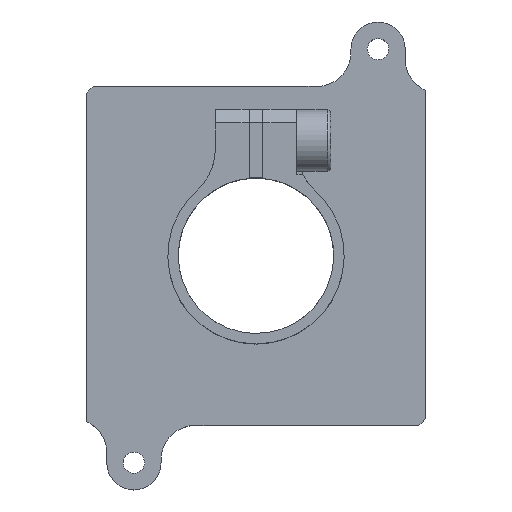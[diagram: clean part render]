
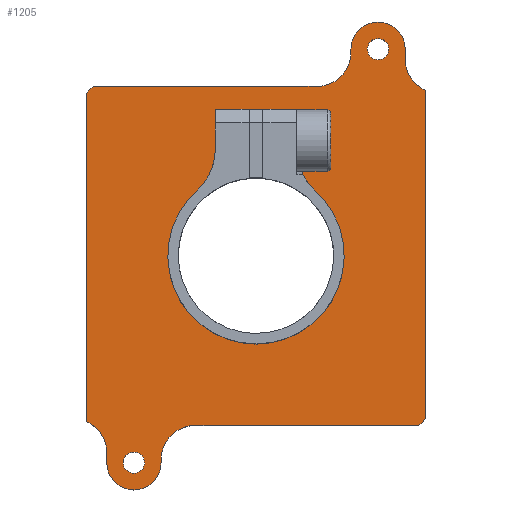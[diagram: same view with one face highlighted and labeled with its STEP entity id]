
A CAD part, top view. The second image highlights one B-rep face of the part: STEP entity #1205.
In plain terms, the highlighted planar face has unit normal (0, 0, 1).
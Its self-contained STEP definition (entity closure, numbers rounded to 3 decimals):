
#51=FACE_BOUND('',#124,.T.);
#52=FACE_BOUND('',#125,.T.);
#53=FACE_BOUND('',#126,.T.);
#58=FACE_OUTER_BOUND('',#123,.T.);
#123=EDGE_LOOP('',(#783,#784,#785,#786,#787,#788,#789,#790,#791,#792,#793,
#794,#795,#796,#797,#798));
#124=EDGE_LOOP('',(#799,#800,#801,#802,#803,#804));
#125=EDGE_LOOP('',(#805));
#126=EDGE_LOOP('',(#806));
#202=CIRCLE('',#1303,2.5);
#203=CIRCLE('',#1304,2.);
#204=CIRCLE('',#1305,2.5);
#205=CIRCLE('',#1306,2.5);
#206=CIRCLE('',#1307,2.);
#207=CIRCLE('',#1308,2.5);
#208=CIRCLE('',#1309,4.);
#209=CIRCLE('',#1310,4.);
#210=CIRCLE('',#1311,6.5);
#211=CIRCLE('',#1312,0.784);
#212=CIRCLE('',#1313,0.784);
#252=LINE('',#1793,#367);
#253=LINE('',#1797,#368);
#254=LINE('',#1801,#369);
#255=LINE('',#1805,#370);
#256=LINE('',#1807,#371);
#257=LINE('',#1809,#372);
#258=LINE('',#1813,#373);
#259=LINE('',#1817,#374);
#260=LINE('',#1821,#375);
#261=LINE('',#1822,#376);
#262=LINE('',#1827,#377);
#263=LINE('',#1829,#378);
#264=LINE('',#1831,#379);
#367=VECTOR('',#1443,10.);
#368=VECTOR('',#1446,10.);
#369=VECTOR('',#1449,10.);
#370=VECTOR('',#1452,10.);
#371=VECTOR('',#1453,10.);
#372=VECTOR('',#1454,10.);
#373=VECTOR('',#1457,10.);
#374=VECTOR('',#1460,10.);
#375=VECTOR('',#1463,10.);
#376=VECTOR('',#1464,10.);
#377=VECTOR('',#1467,10.);
#378=VECTOR('',#1468,10.);
#379=VECTOR('',#1469,10.);
#494=VERTEX_POINT('',#1791);
#495=VERTEX_POINT('',#1792);
#496=VERTEX_POINT('',#1794);
#497=VERTEX_POINT('',#1796);
#498=VERTEX_POINT('',#1798);
#499=VERTEX_POINT('',#1800);
#500=VERTEX_POINT('',#1802);
#501=VERTEX_POINT('',#1804);
#502=VERTEX_POINT('',#1806);
#503=VERTEX_POINT('',#1808);
#504=VERTEX_POINT('',#1810);
#505=VERTEX_POINT('',#1812);
#506=VERTEX_POINT('',#1814);
#507=VERTEX_POINT('',#1816);
#508=VERTEX_POINT('',#1818);
#509=VERTEX_POINT('',#1820);
#510=VERTEX_POINT('',#1823);
#511=VERTEX_POINT('',#1824);
#512=VERTEX_POINT('',#1826);
#513=VERTEX_POINT('',#1828);
#514=VERTEX_POINT('',#1830);
#515=VERTEX_POINT('',#1832);
#516=VERTEX_POINT('',#1835);
#517=VERTEX_POINT('',#1837);
#610=EDGE_CURVE('',#494,#495,#252,.T.);
#611=EDGE_CURVE('',#495,#496,#202,.T.);
#612=EDGE_CURVE('',#496,#497,#253,.T.);
#613=EDGE_CURVE('',#497,#498,#203,.T.);
#614=EDGE_CURVE('',#498,#499,#254,.T.);
#615=EDGE_CURVE('',#499,#500,#204,.T.);
#616=EDGE_CURVE('',#500,#501,#255,.T.);
#617=EDGE_CURVE('',#501,#502,#256,.T.);
#618=EDGE_CURVE('',#502,#503,#257,.T.);
#619=EDGE_CURVE('',#503,#504,#205,.T.);
#620=EDGE_CURVE('',#504,#505,#258,.T.);
#621=EDGE_CURVE('',#505,#506,#206,.T.);
#622=EDGE_CURVE('',#506,#507,#259,.T.);
#623=EDGE_CURVE('',#507,#508,#207,.T.);
#624=EDGE_CURVE('',#508,#509,#260,.T.);
#625=EDGE_CURVE('',#509,#494,#261,.T.);
#626=EDGE_CURVE('',#510,#511,#208,.T.);
#627=EDGE_CURVE('',#511,#512,#262,.T.);
#628=EDGE_CURVE('',#512,#513,#263,.T.);
#629=EDGE_CURVE('',#513,#514,#264,.T.);
#630=EDGE_CURVE('',#514,#515,#209,.T.);
#631=EDGE_CURVE('',#515,#510,#210,.T.);
#632=EDGE_CURVE('',#516,#516,#211,.T.);
#633=EDGE_CURVE('',#517,#517,#212,.T.);
#783=ORIENTED_EDGE('',*,*,#610,.T.);
#784=ORIENTED_EDGE('',*,*,#611,.T.);
#785=ORIENTED_EDGE('',*,*,#612,.T.);
#786=ORIENTED_EDGE('',*,*,#613,.T.);
#787=ORIENTED_EDGE('',*,*,#614,.T.);
#788=ORIENTED_EDGE('',*,*,#615,.T.);
#789=ORIENTED_EDGE('',*,*,#616,.T.);
#790=ORIENTED_EDGE('',*,*,#617,.T.);
#791=ORIENTED_EDGE('',*,*,#618,.T.);
#792=ORIENTED_EDGE('',*,*,#619,.T.);
#793=ORIENTED_EDGE('',*,*,#620,.T.);
#794=ORIENTED_EDGE('',*,*,#621,.T.);
#795=ORIENTED_EDGE('',*,*,#622,.T.);
#796=ORIENTED_EDGE('',*,*,#623,.T.);
#797=ORIENTED_EDGE('',*,*,#624,.T.);
#798=ORIENTED_EDGE('',*,*,#625,.T.);
#799=ORIENTED_EDGE('',*,*,#626,.T.);
#800=ORIENTED_EDGE('',*,*,#627,.T.);
#801=ORIENTED_EDGE('',*,*,#628,.T.);
#802=ORIENTED_EDGE('',*,*,#629,.T.);
#803=ORIENTED_EDGE('',*,*,#630,.T.);
#804=ORIENTED_EDGE('',*,*,#631,.T.);
#805=ORIENTED_EDGE('',*,*,#632,.T.);
#806=ORIENTED_EDGE('',*,*,#633,.T.);
#1104=PLANE('',#1302);
#1205=ADVANCED_FACE('',(#58,#51,#52,#53),#1104,.T.);
#1302=AXIS2_PLACEMENT_3D('',#1790,#1441,#1442);
#1303=AXIS2_PLACEMENT_3D('',#1795,#1444,#1445);
#1304=AXIS2_PLACEMENT_3D('',#1799,#1447,#1448);
#1305=AXIS2_PLACEMENT_3D('',#1803,#1450,#1451);
#1306=AXIS2_PLACEMENT_3D('',#1811,#1455,#1456);
#1307=AXIS2_PLACEMENT_3D('',#1815,#1458,#1459);
#1308=AXIS2_PLACEMENT_3D('',#1819,#1461,#1462);
#1309=AXIS2_PLACEMENT_3D('',#1825,#1465,#1466);
#1310=AXIS2_PLACEMENT_3D('',#1833,#1470,#1471);
#1311=AXIS2_PLACEMENT_3D('',#1834,#1472,#1473);
#1312=AXIS2_PLACEMENT_3D('',#1836,#1474,#1475);
#1313=AXIS2_PLACEMENT_3D('',#1838,#1476,#1477);
#1441=DIRECTION('center_axis',(0.,0.,1.));
#1442=DIRECTION('ref_axis',(1.,0.,0.));
#1443=DIRECTION('',(0.,-1.,0.));
#1444=DIRECTION('center_axis',(0.,0.,-1.));
#1445=DIRECTION('ref_axis',(-1.,0.,0.));
#1446=DIRECTION('',(0.,-1.,0.));
#1447=DIRECTION('center_axis',(0.,0.,1.));
#1448=DIRECTION('ref_axis',(-1.,0.,0.));
#1449=DIRECTION('',(0.,1.,0.));
#1450=DIRECTION('center_axis',(0.,0.,-1.));
#1451=DIRECTION('ref_axis',(0.,-1.,0.));
#1452=DIRECTION('',(1.,0.,0.));
#1453=DIRECTION('',(0.707,0.707,0.));
#1454=DIRECTION('',(0.,1.,0.));
#1455=DIRECTION('center_axis',(0.,0.,-1.));
#1456=DIRECTION('ref_axis',(1.,0.,0.));
#1457=DIRECTION('',(0.,1.,0.));
#1458=DIRECTION('center_axis',(0.,0.,1.));
#1459=DIRECTION('ref_axis',(1.,0.,0.));
#1460=DIRECTION('',(0.,-1.,0.));
#1461=DIRECTION('center_axis',(0.,0.,-1.));
#1462=DIRECTION('ref_axis',(0.,1.,0.));
#1463=DIRECTION('',(-1.,0.,0.));
#1464=DIRECTION('',(-0.707,-0.707,0.));
#1465=DIRECTION('center_axis',(0.,0.,1.));
#1466=DIRECTION('ref_axis',(-0.667,0.745,0.));
#1467=DIRECTION('',(0.,1.,0.));
#1468=DIRECTION('',(1.,0.,0.));
#1469=DIRECTION('',(0.,-1.,0.));
#1470=DIRECTION('center_axis',(0.,0.,1.));
#1471=DIRECTION('ref_axis',(1.,0.,0.));
#1472=DIRECTION('center_axis',(0.,0.,-1.));
#1473=DIRECTION('ref_axis',(-0.667,0.745,0.));
#1474=DIRECTION('center_axis',(0.,0.,-1.));
#1475=DIRECTION('ref_axis',(-1.,0.,0.));
#1476=DIRECTION('center_axis',(0.,0.,-1.));
#1477=DIRECTION('ref_axis',(-1.,0.,0.));
#1790=CARTESIAN_POINT('Origin',(0.,0.,4.5));
#1791=CARTESIAN_POINT('',(-12.5,12.,4.5));
#1792=CARTESIAN_POINT('',(-12.5,-12.209,4.5));
#1793=CARTESIAN_POINT('',(-12.5,12.,4.5));
#1794=CARTESIAN_POINT('',(-11.,-14.5,4.5));
#1795=CARTESIAN_POINT('Origin',(-13.5,-14.5,4.5));
#1796=CARTESIAN_POINT('',(-11.,-15.25,4.5));
#1797=CARTESIAN_POINT('',(-11.,-14.5,4.5));
#1798=CARTESIAN_POINT('',(-7.,-15.25,4.5));
#1799=CARTESIAN_POINT('Origin',(-9.,-15.25,4.5));
#1800=CARTESIAN_POINT('',(-7.,-15.,4.5));
#1801=CARTESIAN_POINT('',(-7.,-15.25,4.5));
#1802=CARTESIAN_POINT('',(-4.5,-12.5,4.5));
#1803=CARTESIAN_POINT('Origin',(-4.5,-15.,4.5));
#1804=CARTESIAN_POINT('',(12.,-12.5,4.5));
#1805=CARTESIAN_POINT('',(-4.5,-12.5,4.5));
#1806=CARTESIAN_POINT('',(12.5,-12.,4.5));
#1807=CARTESIAN_POINT('',(12.,-12.5,4.5));
#1808=CARTESIAN_POINT('',(12.5,12.209,4.5));
#1809=CARTESIAN_POINT('',(12.5,-12.,4.5));
#1810=CARTESIAN_POINT('',(11.,14.5,4.5));
#1811=CARTESIAN_POINT('Origin',(13.5,14.5,4.5));
#1812=CARTESIAN_POINT('',(11.,15.25,4.5));
#1813=CARTESIAN_POINT('',(11.,14.5,4.5));
#1814=CARTESIAN_POINT('',(7.,15.25,4.5));
#1815=CARTESIAN_POINT('Origin',(9.,15.25,4.5));
#1816=CARTESIAN_POINT('',(7.,15.,4.5));
#1817=CARTESIAN_POINT('',(7.,15.25,4.5));
#1818=CARTESIAN_POINT('',(4.5,12.5,4.5));
#1819=CARTESIAN_POINT('Origin',(4.5,15.,4.5));
#1820=CARTESIAN_POINT('',(-12.,12.5,4.5));
#1821=CARTESIAN_POINT('',(4.5,12.5,4.5));
#1822=CARTESIAN_POINT('',(-12.,12.5,4.5));
#1823=CARTESIAN_POINT('',(-4.333,4.845,4.5));
#1824=CARTESIAN_POINT('',(-3.,7.826,4.5));
#1825=CARTESIAN_POINT('Origin',(-7.,7.826,4.5));
#1826=CARTESIAN_POINT('',(-3.,10.8,4.5));
#1827=CARTESIAN_POINT('',(-3.,5.4,4.5));
#1828=CARTESIAN_POINT('',(3.,10.8,4.5));
#1829=CARTESIAN_POINT('',(1.5,10.8,4.5));
#1830=CARTESIAN_POINT('',(3.,7.826,4.5));
#1831=CARTESIAN_POINT('',(3.,3.913,4.5));
#1832=CARTESIAN_POINT('',(4.333,4.845,4.5));
#1833=CARTESIAN_POINT('Origin',(7.,7.826,4.5));
#1834=CARTESIAN_POINT('Origin',(0.,0.,4.5));
#1835=CARTESIAN_POINT('',(9.784,15.25,4.5));
#1836=CARTESIAN_POINT('Origin',(9.,15.25,4.5));
#1837=CARTESIAN_POINT('',(-8.217,-15.25,4.5));
#1838=CARTESIAN_POINT('Origin',(-9.,-15.25,4.5));
